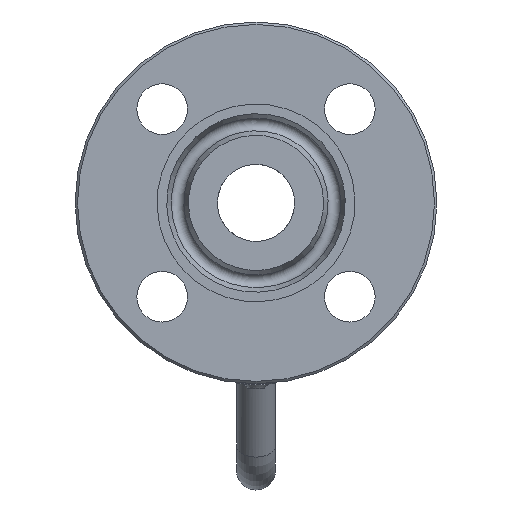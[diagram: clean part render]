
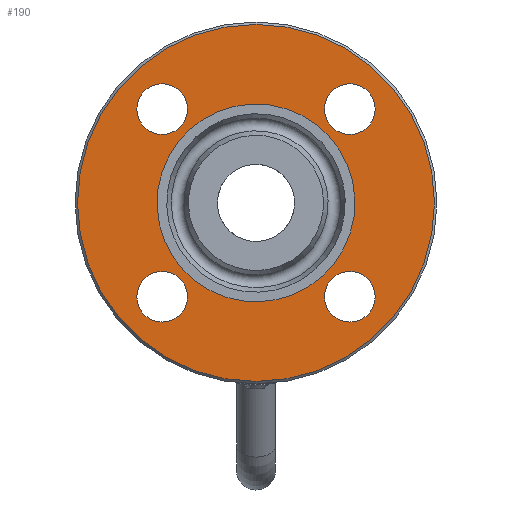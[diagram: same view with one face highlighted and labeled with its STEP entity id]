
A CAD part, left-side view. The second image highlights one B-rep face of the part: STEP entity #190.
In plain terms, the highlighted planar face has unit normal (-1, 0, 0).
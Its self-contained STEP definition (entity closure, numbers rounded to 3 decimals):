
#190=ADVANCED_FACE('',(#1575,#1577,#1579,#1581,#1583,#1585),#1587,.T.);
#1575=FACE_BOUND('',#1576,.T.);
#1576=EDGE_LOOP('',(#2489));
#1577=FACE_BOUND('',#1578,.T.);
#1578=EDGE_LOOP('',(#2490));
#1579=FACE_BOUND('',#1580,.T.);
#1580=EDGE_LOOP('',(#2491));
#1581=FACE_BOUND('',#1582,.T.);
#1582=EDGE_LOOP('',(#2492));
#1583=FACE_BOUND('',#1584,.T.);
#1584=EDGE_LOOP('',(#2493));
#1585=FACE_OUTER_BOUND('',#1586,.T.);
#1586=EDGE_LOOP('',(#2494));
#1587=PLANE('',#1588);
#1588=AXIS2_PLACEMENT_3D('',#1589,#1590,#1591);
#1589=CARTESIAN_POINT('',(-87.,0.,0.));
#1590=DIRECTION('',(-1.,0.,0.));
#1591=DIRECTION('',(0.,-1.,0.));
#2489=ORIENTED_EDGE('',*,*,#3489,.T.);
#2490=ORIENTED_EDGE('',*,*,#3490,.T.);
#2491=ORIENTED_EDGE('',*,*,#3491,.T.);
#2492=ORIENTED_EDGE('',*,*,#3492,.T.);
#2493=ORIENTED_EDGE('',*,*,#3481,.T.);
#2494=ORIENTED_EDGE('',*,*,#3493,.T.);
#3481=EDGE_CURVE('',#3889,#3889,#3890,.T.);
#3489=EDGE_CURVE('',#3902,#3902,#3903,.T.);
#3490=EDGE_CURVE('',#3904,#3904,#3905,.T.);
#3491=EDGE_CURVE('',#3906,#3906,#3907,.T.);
#3492=EDGE_CURVE('',#3908,#3908,#3909,.T.);
#3493=EDGE_CURVE('',#3910,#3910,#3911,.T.);
#3889=VERTEX_POINT('',#5502);
#3890=CIRCLE('',#5503,41.);
#3902=VERTEX_POINT('',#5537);
#3903=CIRCLE('',#5538,10.5);
#3904=VERTEX_POINT('',#5542);
#3905=CIRCLE('',#5543,10.5);
#3906=VERTEX_POINT('',#5547);
#3907=CIRCLE('',#5548,10.5);
#3908=VERTEX_POINT('',#5552);
#3909=CIRCLE('',#5553,10.5);
#3910=VERTEX_POINT('',#5557);
#3911=CIRCLE('',#5558,74.);
#5502=CARTESIAN_POINT('',(-87.,40.968,-1.62));
#5503=AXIS2_PLACEMENT_3D('',#5504,#5505,#5506);
#5504=CARTESIAN_POINT('',(-87.,0.,0.));
#5505=DIRECTION('',(1.,0.,0.));
#5506=DIRECTION('',(0.,0.999,-0.04));
#5537=CARTESIAN_POINT('',(-87.,38.891,-49.391));
#5538=AXIS2_PLACEMENT_3D('',#5539,#5540,#5541);
#5539=CARTESIAN_POINT('',(-87.,38.891,-38.891));
#5540=DIRECTION('',(1.,0.,0.));
#5541=DIRECTION('',(0.,-0.,-1.));
#5542=CARTESIAN_POINT('',(-87.,49.391,38.891));
#5543=AXIS2_PLACEMENT_3D('',#5544,#5545,#5546);
#5544=CARTESIAN_POINT('',(-87.,38.891,38.891));
#5545=DIRECTION('',(1.,0.,0.));
#5546=DIRECTION('',(0.,1.,0.));
#5547=CARTESIAN_POINT('',(-87.,-38.891,49.391));
#5548=AXIS2_PLACEMENT_3D('',#5549,#5550,#5551);
#5549=CARTESIAN_POINT('',(-87.,-38.891,38.891));
#5550=DIRECTION('',(1.,0.,0.));
#5551=DIRECTION('',(0.,0.,1.));
#5552=CARTESIAN_POINT('',(-87.,-49.391,-38.891));
#5553=AXIS2_PLACEMENT_3D('',#5554,#5555,#5556);
#5554=CARTESIAN_POINT('',(-87.,-38.891,-38.891));
#5555=DIRECTION('',(1.,0.,0.));
#5556=DIRECTION('',(0.,-1.,0.));
#5557=CARTESIAN_POINT('',(-87.,-74.,0.));
#5558=AXIS2_PLACEMENT_3D('',#5559,#5560,#5561);
#5559=CARTESIAN_POINT('',(-87.,0.,0.));
#5560=DIRECTION('',(-1.,0.,0.));
#5561=DIRECTION('',(0.,-1.,0.));
